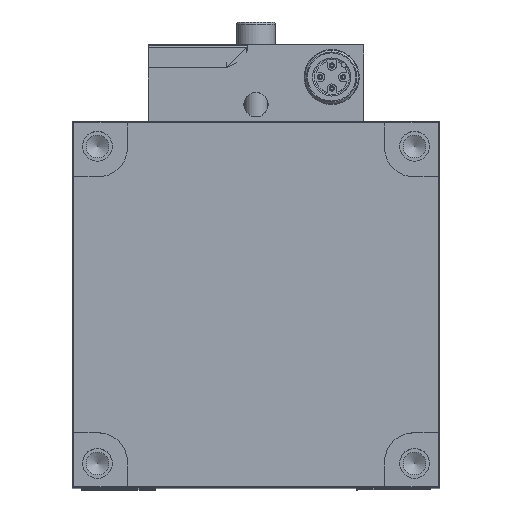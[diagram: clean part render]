
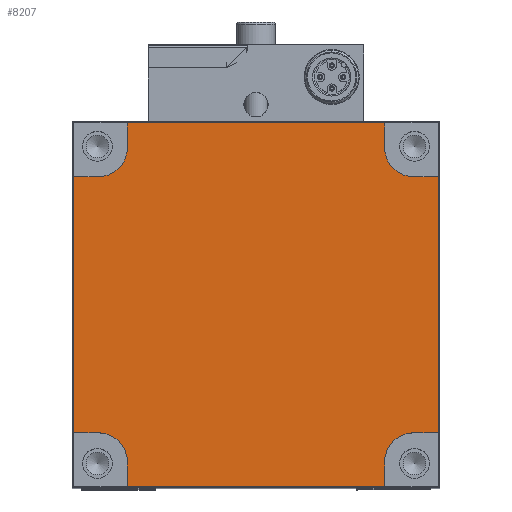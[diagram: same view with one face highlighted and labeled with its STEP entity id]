
A CAD part, top view. The second image highlights one B-rep face of the part: STEP entity #8207.
In plain terms, the highlighted planar face has unit normal (0, 0, 1).
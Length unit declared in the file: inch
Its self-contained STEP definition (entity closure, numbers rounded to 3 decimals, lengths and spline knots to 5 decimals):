
#620=FACE_OUTER_BOUND('',#1094,.T.);
#1094=EDGE_LOOP('',(#6124,#6125,#6126,#6127,#6128,#6129,#6130,#6131,#6132,
#6133,#6134,#6135,#6136,#6137,#6138,#6139));
#1595=LINE('',#13314,#2191);
#1599=LINE('',#13326,#2195);
#1602=LINE('',#13334,#2198);
#1608=LINE('',#13352,#2204);
#1624=LINE('',#13646,#2220);
#1625=LINE('',#13648,#2221);
#1626=LINE('',#13649,#2222);
#1627=LINE('',#13651,#2223);
#1628=LINE('',#13652,#2224);
#1629=LINE('',#13654,#2225);
#1630=LINE('',#13655,#2226);
#1631=LINE('',#13656,#2227);
#2191=VECTOR('',#10578,0.3937);
#2195=VECTOR('',#10590,0.3937);
#2198=VECTOR('',#10599,0.3937);
#2204=VECTOR('',#10613,0.3937);
#2220=VECTOR('',#10679,0.3937);
#2221=VECTOR('',#10680,0.3937);
#2222=VECTOR('',#10681,0.3937);
#2223=VECTOR('',#10682,0.3937);
#2224=VECTOR('',#10683,0.3937);
#2225=VECTOR('',#10684,0.3937);
#2226=VECTOR('',#10685,0.3937);
#2227=VECTOR('',#10686,0.3937);
#2761=CIRCLE('',#8948,0.25);
#2762=CIRCLE('',#8951,0.25);
#2764=CIRCLE('',#8955,0.25);
#2766=CIRCLE('',#8959,0.25);
#3409=VERTEX_POINT('',#13307);
#3412=VERTEX_POINT('',#13312);
#3414=VERTEX_POINT('',#13318);
#3415=VERTEX_POINT('',#13322);
#3416=VERTEX_POINT('',#13324);
#3417=VERTEX_POINT('',#13328);
#3418=VERTEX_POINT('',#13332);
#3421=VERTEX_POINT('',#13339);
#3422=VERTEX_POINT('',#13341);
#3423=VERTEX_POINT('',#13345);
#3426=VERTEX_POINT('',#13350);
#3428=VERTEX_POINT('',#13356);
#3457=VERTEX_POINT('',#13645);
#3458=VERTEX_POINT('',#13647);
#3459=VERTEX_POINT('',#13650);
#3460=VERTEX_POINT('',#13653);
#4375=EDGE_CURVE('',#3409,#3412,#1595,.T.);
#4378=EDGE_CURVE('',#3412,#3414,#2761,.T.);
#4381=EDGE_CURVE('',#3415,#3416,#1599,.T.);
#4383=EDGE_CURVE('',#3416,#3417,#2762,.T.);
#4385=EDGE_CURVE('',#3417,#3418,#1602,.T.);
#4388=EDGE_CURVE('',#3422,#3421,#2764,.T.);
#4393=EDGE_CURVE('',#3423,#3426,#1608,.T.);
#4396=EDGE_CURVE('',#3426,#3428,#2766,.T.);
#4435=EDGE_CURVE('',#3457,#3423,#1624,.T.);
#4436=EDGE_CURVE('',#3428,#3458,#1625,.T.);
#4437=EDGE_CURVE('',#3458,#3409,#1626,.T.);
#4438=EDGE_CURVE('',#3414,#3459,#1627,.T.);
#4439=EDGE_CURVE('',#3459,#3415,#1628,.T.);
#4440=EDGE_CURVE('',#3418,#3460,#1629,.T.);
#4441=EDGE_CURVE('',#3460,#3422,#1630,.T.);
#4442=EDGE_CURVE('',#3421,#3457,#1631,.T.);
#6124=ORIENTED_EDGE('',*,*,#4435,.T.);
#6125=ORIENTED_EDGE('',*,*,#4393,.T.);
#6126=ORIENTED_EDGE('',*,*,#4396,.T.);
#6127=ORIENTED_EDGE('',*,*,#4436,.T.);
#6128=ORIENTED_EDGE('',*,*,#4437,.T.);
#6129=ORIENTED_EDGE('',*,*,#4375,.T.);
#6130=ORIENTED_EDGE('',*,*,#4378,.T.);
#6131=ORIENTED_EDGE('',*,*,#4438,.T.);
#6132=ORIENTED_EDGE('',*,*,#4439,.T.);
#6133=ORIENTED_EDGE('',*,*,#4381,.T.);
#6134=ORIENTED_EDGE('',*,*,#4383,.T.);
#6135=ORIENTED_EDGE('',*,*,#4385,.T.);
#6136=ORIENTED_EDGE('',*,*,#4440,.T.);
#6137=ORIENTED_EDGE('',*,*,#4441,.T.);
#6138=ORIENTED_EDGE('',*,*,#4388,.T.);
#6139=ORIENTED_EDGE('',*,*,#4442,.T.);
#7493=PLANE('',#8981);
#8207=ADVANCED_FACE('',(#620),#7493,.T.);
#8948=AXIS2_PLACEMENT_3D('',#13320,#10584,#10585);
#8951=AXIS2_PLACEMENT_3D('',#13330,#10594,#10595);
#8955=AXIS2_PLACEMENT_3D('',#13342,#10605,#10606);
#8959=AXIS2_PLACEMENT_3D('',#13358,#10619,#10620);
#8981=AXIS2_PLACEMENT_3D('',#13644,#10677,#10678);
#10578=DIRECTION('',(1.,0.,0.));
#10584=DIRECTION('center_axis',(0.,0.,
-1.));
#10585=DIRECTION('ref_axis',(1.,0.,0.));
#10590=DIRECTION('',(0.,1.,0.));
#10594=DIRECTION('center_axis',(0.,0.,
-1.));
#10595=DIRECTION('ref_axis',(0.,1.,0.));
#10599=DIRECTION('',(1.,0.,0.));
#10605=DIRECTION('center_axis',(0.,0.,
-1.));
#10606=DIRECTION('ref_axis',(-1.,0.,0.));
#10613=DIRECTION('',(0.,-1.,0.));
#10619=DIRECTION('center_axis',(0.,0.,
-1.));
#10620=DIRECTION('ref_axis',(0.,-1.,0.));
#10677=DIRECTION('center_axis',(0.,0.,
1.));
#10678=DIRECTION('ref_axis',(0.,-1.,0.));
#10679=DIRECTION('',(-1.,0.,0.));
#10680=DIRECTION('',(-1.,0.,0.));
#10681=DIRECTION('',(0.,-1.,0.));
#10682=DIRECTION('',(0.,-1.,0.));
#10683=DIRECTION('',(1.,0.,0.));
#10684=DIRECTION('',(0.,1.,0.));
#10685=DIRECTION('',(-1.,0.,0.));
#10686=DIRECTION('',(0.,1.,0.));
#13307=CARTESIAN_POINT('',(-6.06831,3.51375,8.07149));
#13312=CARTESIAN_POINT('',(-5.85631,3.51375,8.07149));
#13314=CARTESIAN_POINT('',(-5.17981,3.51375,8.07149));
#13318=CARTESIAN_POINT('',(-5.60631,3.26375,8.07149));
#13320=CARTESIAN_POINT('Origin',(-5.85631,3.26375,8.07149));
#13322=CARTESIAN_POINT('',(-3.40031,3.05175,8.07149));
#13324=CARTESIAN_POINT('',(-3.40031,3.26375,8.07149));
#13326=CARTESIAN_POINT('',(-3.40031,3.93775,8.07149));
#13328=CARTESIAN_POINT('',(-3.15031,3.51375,8.07149));
#13330=CARTESIAN_POINT('Origin',(-3.15031,3.26375,8.07149));
#13332=CARTESIAN_POINT('',(-2.93831,3.51375,8.07149));
#13334=CARTESIAN_POINT('',(-3.71581,3.51375,8.07149));
#13339=CARTESIAN_POINT('',(-3.40031,5.95975,8.07149));
#13341=CARTESIAN_POINT('',(-3.15031,5.70975,8.07149));
#13342=CARTESIAN_POINT('Origin',(-3.15031,5.95975,8.07149));
#13345=CARTESIAN_POINT('',(-5.60631,6.17175,8.07149));
#13350=CARTESIAN_POINT('',(-5.60631,5.95975,8.07149));
#13352=CARTESIAN_POINT('',(-5.60631,5.28575,8.07149));
#13356=CARTESIAN_POINT('',(-5.85631,5.70975,8.07149));
#13358=CARTESIAN_POINT('Origin',(-5.85631,5.95975,8.07149));
#13644=CARTESIAN_POINT('Origin',(-4.50331,4.61175,8.07149));
#13645=CARTESIAN_POINT('',(-3.40031,6.17175,8.07149));
#13646=CARTESIAN_POINT('',(-5.29081,6.17175,8.07149));
#13647=CARTESIAN_POINT('',(-6.06831,5.70975,8.07149));
#13648=CARTESIAN_POINT('',(-5.29081,5.70975,8.07149));
#13649=CARTESIAN_POINT('',(-6.06831,3.82425,8.07149));
#13650=CARTESIAN_POINT('',(-5.60631,3.05175,8.07149));
#13651=CARTESIAN_POINT('',(-5.60631,3.82425,8.07149));
#13652=CARTESIAN_POINT('',(-3.71581,3.05175,8.07149));
#13653=CARTESIAN_POINT('',(-2.93831,5.70975,8.07149));
#13654=CARTESIAN_POINT('',(-2.93831,5.39925,8.07149));
#13655=CARTESIAN_POINT('',(-3.82681,5.70975,8.07149));
#13656=CARTESIAN_POINT('',(-3.40031,5.39925,8.07149));
